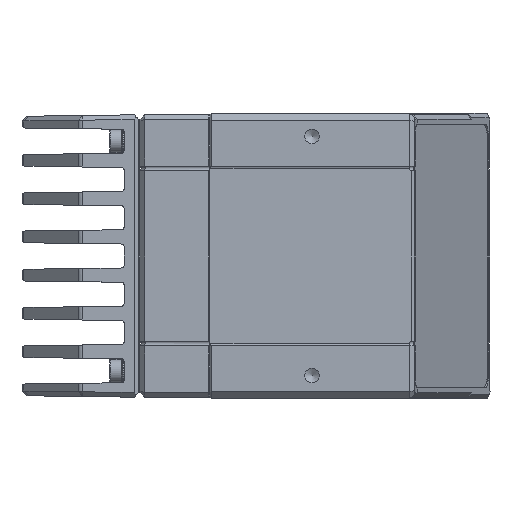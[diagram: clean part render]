
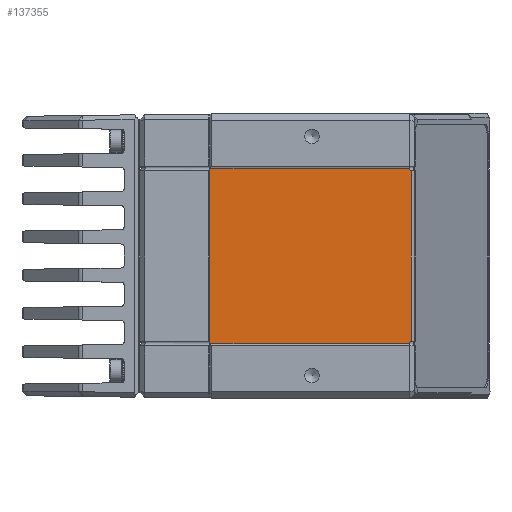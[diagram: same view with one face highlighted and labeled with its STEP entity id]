
A CAD part, left-side view. The second image highlights one B-rep face of the part: STEP entity #137355.
In plain terms, the highlighted planar face has unit normal (-1, 0, 0).
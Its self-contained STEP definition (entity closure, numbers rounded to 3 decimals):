
#16307 = DIRECTION ( 'NONE',  ( 0., 0., -1. ) ) ;
#18424 = CARTESIAN_POINT ( 'NONE',  ( -14.8, -4.667, 15. ) ) ;
#19461 = LINE ( 'NONE', #32675, #112798 ) ;
#19863 = ORIENTED_EDGE ( 'NONE', *, *, #148975, .T. ) ;
#20031 = VECTOR ( 'NONE', #22811, 1000. ) ;
#21275 = CARTESIAN_POINT ( 'NONE',  ( -14.8, -4.667, -15. ) ) ;
#22811 = DIRECTION ( 'NONE',  ( 0., 0., -1. ) ) ;
#24318 = CARTESIAN_POINT ( 'NONE',  ( -14.8, 29.5, -15. ) ) ;
#29780 = VECTOR ( 'NONE', #62156, 1000. ) ;
#30043 = EDGE_CURVE ( 'NONE', #146327, #126922, #132009, .T. ) ;
#30384 = EDGE_CURVE ( 'NONE', #146327, #44473, #140542, .T. ) ;
#32675 = CARTESIAN_POINT ( 'NONE',  ( -14.8, -5.5, 15. ) ) ;
#35969 = ORIENTED_EDGE ( 'NONE', *, *, #72613, .T. ) ;
#37983 = FACE_OUTER_BOUND ( 'NONE', #83353, .T. ) ;
#41903 = CARTESIAN_POINT ( 'NONE',  ( -14.8, -4.667, -15. ) ) ;
#43429 = CARTESIAN_POINT ( 'NONE',  ( -14.8, -4.95, -14.6 ) ) ;
#44473 = VERTEX_POINT ( 'NONE', #104927 ) ;
#48551 = CARTESIAN_POINT ( 'NONE',  ( -14.8, -4.95, 24.5 ) ) ;
#50022 = EDGE_CURVE ( 'NONE', #116134, #93691, #87875, .T. ) ;
#50507 = CARTESIAN_POINT ( 'NONE',  ( -14.8, -5.5, 0. ) ) ;
#51201 = ORIENTED_EDGE ( 'NONE', *, *, #50022, .T. ) ;
#57305 = EDGE_CURVE ( 'NONE', #97568, #44473, #19461, .T. ) ;
#62156 = DIRECTION ( 'NONE',  ( 0., -1., 0. ) ) ;
#66802 = CARTESIAN_POINT ( 'NONE',  ( -14.8, -4.667, 14.84 ) ) ;
#72613 = EDGE_CURVE ( 'NONE', #93691, #126922, #94911, .T. ) ;
#74796 = LINE ( 'NONE', #85775, #103317 ) ;
#83353 = EDGE_LOOP ( 'NONE', ( #116155, #153878, #19863, #51201, #35969, #109648 ) ) ;
#85775 = CARTESIAN_POINT ( 'NONE',  ( -14.8, 29.5, 0. ) ) ;
#87146 = CARTESIAN_POINT ( 'NONE',  ( -14.8, 29.5, 15. ) ) ;
#87875 = LINE ( 'NONE', #136238, #29780 ) ;
#87915 = DIRECTION ( 'NONE',  ( 0., -1., 0. ) ) ;
#88666 = CARTESIAN_POINT ( 'NONE',  ( -14.8, -4.769, 14.696 ) ) ;
#89473 = CARTESIAN_POINT ( 'NONE',  ( -14.8, -4.667, -14.84 ) ) ;
#93691 = VERTEX_POINT ( 'NONE', #21275 ) ;
#94911 =( BOUNDED_CURVE ( )  B_SPLINE_CURVE ( 3, ( #41903, #89473, #101963, #43429 ),
 .UNSPECIFIED., .F., .T. ) 
 B_SPLINE_CURVE_WITH_KNOTS ( ( 4, 4 ),
 ( 3.142, 4.069 ),
 .UNSPECIFIED. ) 
 CURVE ( )  GEOMETRIC_REPRESENTATION_ITEM ( )  RATIONAL_B_SPLINE_CURVE ( ( 1., 0.93, 0.93, 1. ) ) 
 REPRESENTATION_ITEM ( '' )  );
#97568 = VERTEX_POINT ( 'NONE', #87146 ) ;
#98056 = DIRECTION ( 'NONE',  ( -1., 0., 0. ) ) ;
#101963 = CARTESIAN_POINT ( 'NONE',  ( -14.8, -4.769, -14.696 ) ) ;
#103317 = VECTOR ( 'NONE', #16307, 1000. ) ;
#104927 = CARTESIAN_POINT ( 'NONE',  ( -14.8, -4.667, 15. ) ) ;
#109648 = ORIENTED_EDGE ( 'NONE', *, *, #30043, .F. ) ;
#112798 = VECTOR ( 'NONE', #114622, 1000. ) ;
#114622 = DIRECTION ( 'NONE',  ( 0., -1., 0. ) ) ;
#116134 = VERTEX_POINT ( 'NONE', #24318 ) ;
#116155 = ORIENTED_EDGE ( 'NONE', *, *, #30384, .T. ) ;
#126068 = CARTESIAN_POINT ( 'NONE',  ( -14.8, -4.95, 14.6 ) ) ;
#126922 = VERTEX_POINT ( 'NONE', #153919 ) ;
#132009 = LINE ( 'NONE', #48551, #20031 ) ;
#134342 = CARTESIAN_POINT ( 'NONE',  ( -14.8, -4.95, 14.6 ) ) ;
#136238 = CARTESIAN_POINT ( 'NONE',  ( -14.8, -5.5, -15. ) ) ;
#137355 = ADVANCED_FACE ( 'NONE', ( #37983 ), #147206, .T. ) ;
#140542 =( BOUNDED_CURVE ( )  B_SPLINE_CURVE ( 3, ( #126068, #88666, #66802, #18424 ),
 .UNSPECIFIED., .F., .T. ) 
 B_SPLINE_CURVE_WITH_KNOTS ( ( 4, 4 ),
 ( 2.214, 3.142 ),
 .UNSPECIFIED. ) 
 CURVE ( )  GEOMETRIC_REPRESENTATION_ITEM ( )  RATIONAL_B_SPLINE_CURVE ( ( 1., 0.93, 0.93, 1. ) ) 
 REPRESENTATION_ITEM ( '' )  );
#146327 = VERTEX_POINT ( 'NONE', #134342 ) ;
#147206 = PLANE ( 'NONE',  #149323 ) ;
#148975 = EDGE_CURVE ( 'NONE', #97568, #116134, #74796, .T. ) ;
#149323 = AXIS2_PLACEMENT_3D ( 'NONE', #50507, #98056, #87915 ) ;
#153878 = ORIENTED_EDGE ( 'NONE', *, *, #57305, .F. ) ;
#153919 = CARTESIAN_POINT ( 'NONE',  ( -14.8, -4.95, -14.6 ) ) ;
